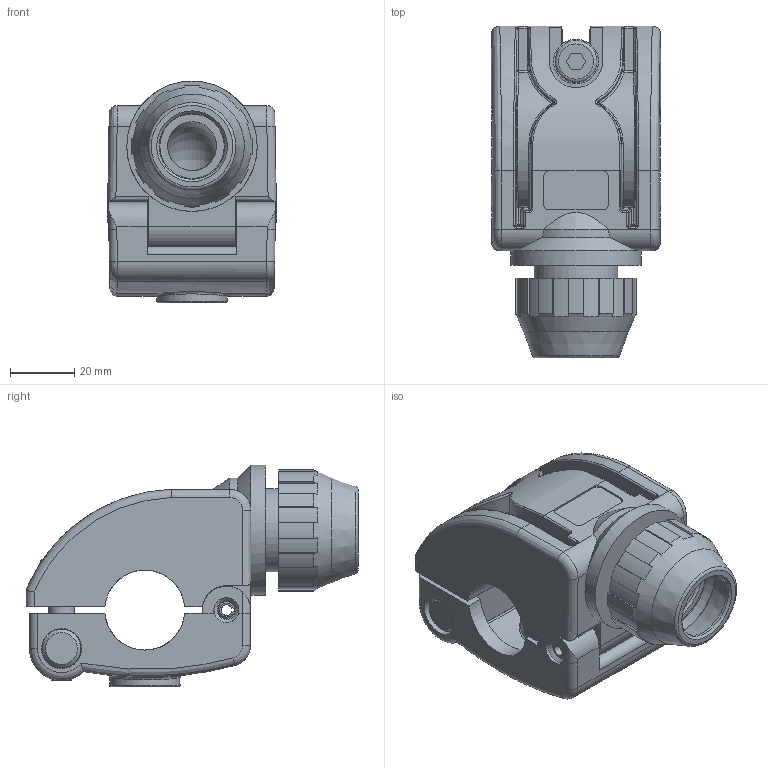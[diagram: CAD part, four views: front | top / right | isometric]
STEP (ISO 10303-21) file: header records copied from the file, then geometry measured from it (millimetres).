
FILE_DESCRIPTION( ( 'STEP AP214' ), '1' );
FILE_NAME( ' ', ' ', ( ' ' ), ( ' ' ), 'PSStep 11.0', 'VISI 17.0', ' ' );
FILE_SCHEMA( ( 'AUTOMOTIVE_DESIGN { 1 0 10303 214 1 1 1 1 }' ) );
Length unit declared in the file: millimetre
Products named in the file (10): 1; 2; 3; 4; 5; 6; 7; 8; 9; 10
Bounding box: 52.9 x 103.69 x 69.3 mm (x, y, z)
Volume: 139872.2 mm3; surface area: 56315.1 mm2
Topology: 10 solids, 10 shells, 392 faces, 998 edges, 630 vertices
Faces by surface type: plane 134, cylinder 133, bspline 73, cone 19, sphere 18, torus 14, extrusion 1
Full cylindrical faces by diameter (mm): 5.3 x1, 5.8 x1, 5.904 x1, 7.8 x1, 8 x2, 9 x1, 12 x1, 12.5 x1, 13 x1, 14 x1, 15 x1, 15.27 x2, 15.5 x1, 19 x1, 20.6 x2, 22 x1, 23.4 x1, 24.9 x1, 26 x1, 29.88 x1, 31 x1, 33 x2, 40.72 x1
Entity records: 30253 total; most frequent: CARTESIAN_POINT 18233, ORIENTED_EDGE 1844, DIRECTION 1716, EDGE_CURVE 922, AXIS2_PLACEMENT_3D 659, VERTEX_POINT 607, EDGE_LOOP 471, FACE_OUTER_BOUND 429
